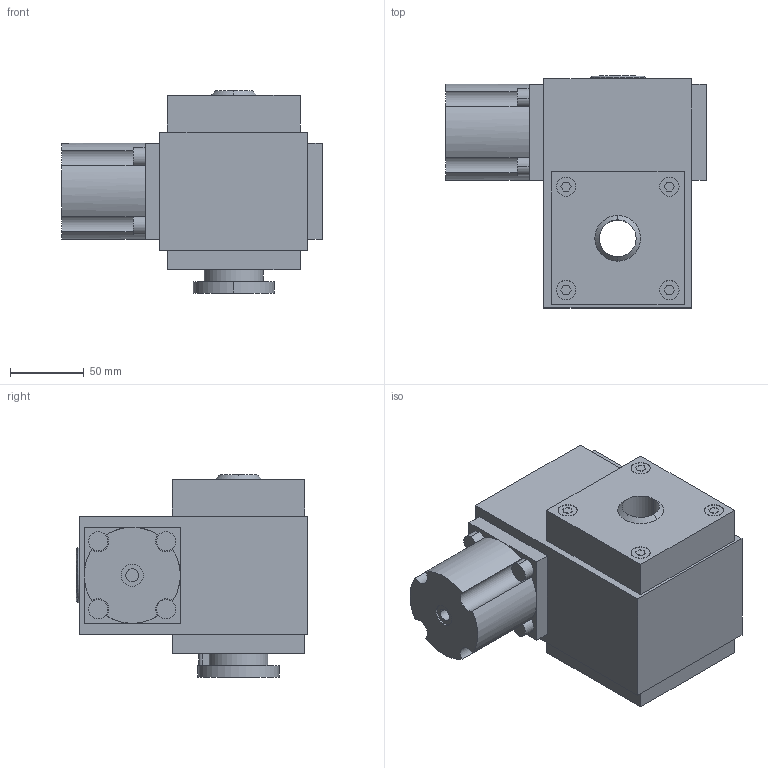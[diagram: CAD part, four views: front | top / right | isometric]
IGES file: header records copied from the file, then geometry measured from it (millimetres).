
Start section:  PTC IGES file: R412003733\r412003733.iges
Global section: file name: R412003733\r412003733.iges; native system: Creo Parametric by PTC Inc.; preprocessor: 2020044; author: THD3HC; organization: Unknown; date: 20230801.111628; units: millimetre
Bounding box: 176.5 x 157 x 137 mm (x, y, z)
Surface area: 120335.6 mm2 (no closed solid volume)
Topology: 0 solids, 0 shells, 171 faces, 792 edges, 792 vertices
Faces by surface type: bspline 111, revolution 60
